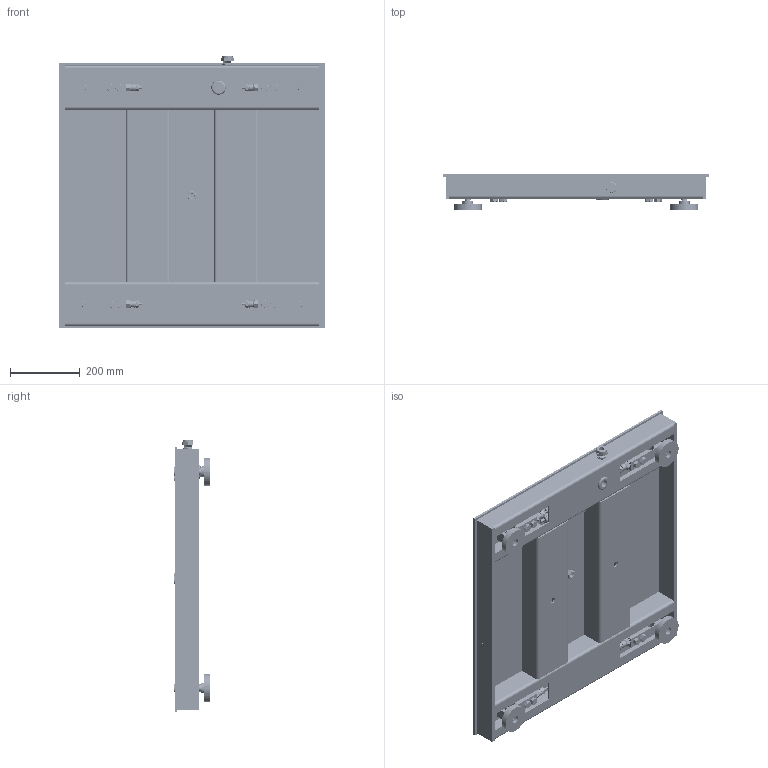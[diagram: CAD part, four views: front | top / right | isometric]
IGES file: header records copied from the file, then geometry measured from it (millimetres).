
Start section: SolidWorks IGES file using analytic representation for surfaces
Global section: file name: C:\0_Work\SolidWorks\~0_B-TEK Floor Scale\FS Series Floor Scales\HIFS-3030 Series.IGS; native system: SolidWorks 2017; preprocessor: SolidWorks 2017; author: vach01; date: 191017.095937; units: inch
Bounding box: 762 x 102.3 x 784.23 mm (x, y, z)
Surface area: 3290309.9 mm2 (no closed solid volume)
Topology: 0 solids, 0 shells, 19961 faces, 181079 edges, 181031 vertices
Faces by surface type: bspline 15496, revolution 4465
